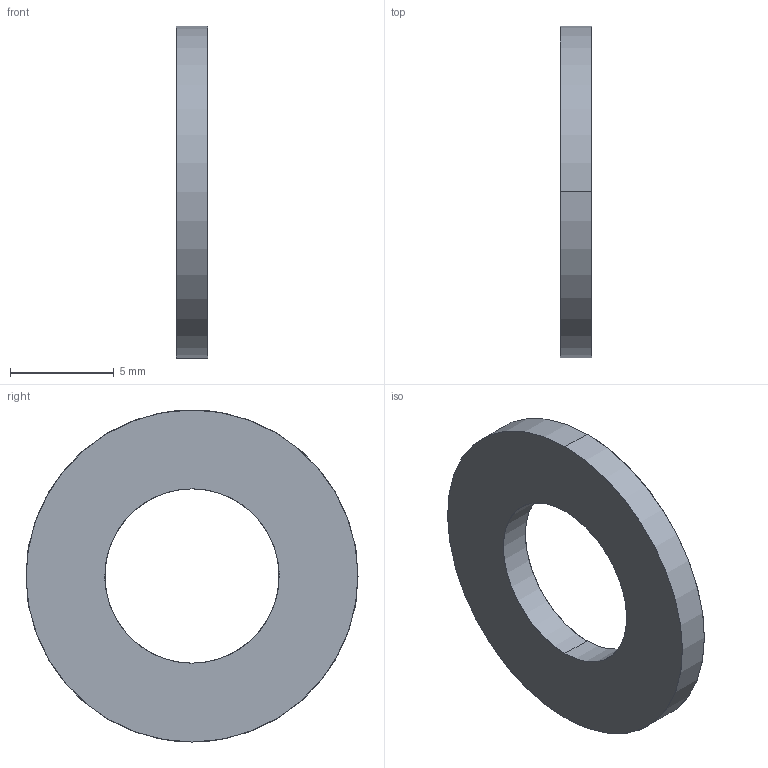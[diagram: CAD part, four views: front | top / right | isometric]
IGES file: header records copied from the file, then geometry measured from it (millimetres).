
Start section: START RECORD GO HERE.
Global section: file name: Rondelle_plate38.igs; native system: IBM CATIA IGES - CATIA Version 5 Release 18 ; preprocessor: CATIA Version 5 Release 18 ; author: Propriétaire; organization: FUJITSU-79916BB; date: 20090111.191511; units: millimetre
Bounding box: 1.5 x 16 x 16 mm (x, y, z)
Surface area: 406.3 mm2 (no closed solid volume)
Topology: 0 solids, 0 shells, 6 faces, 24 edges, 24 vertices
Faces by surface type: revolution 4, plane 2
